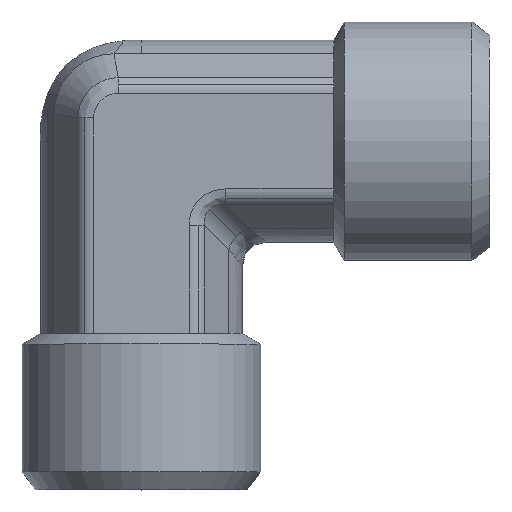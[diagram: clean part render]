
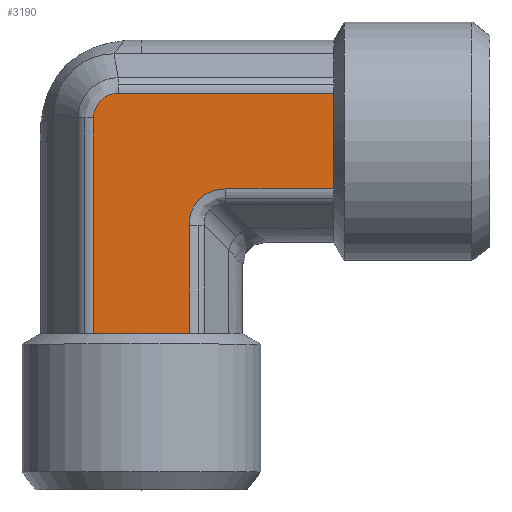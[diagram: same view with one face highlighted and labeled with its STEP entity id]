
A CAD part, top view. The second image highlights one B-rep face of the part: STEP entity #3190.
In plain terms, the highlighted planar face has unit normal (0, 0, 1) as drawn and (0, -1, 0) by its records, which use the part's own axes.
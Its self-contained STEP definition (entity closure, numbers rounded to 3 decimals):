
#361=CARTESIAN_POINT('',(2.515,-8.4,3.984));
#362=VERTEX_POINT('',#361);
#370=CARTESIAN_POINT('',(11.5,-8.4,3.984));
#371=VERTEX_POINT('',#370);
#372=CARTESIAN_POINT('',(2.515,-8.4,3.984));
#373=DIRECTION('',(1.0,0.0,0.0));
#374=VECTOR('',#373,8.985);
#375=LINE('',#372,#374);
#376=EDGE_CURVE('',#362,#371,#375,.T.);
#485=CARTESIAN_POINT('',(-8.484,-8.4,-1.926));
#486=VERTEX_POINT('',#485);
#494=CARTESIAN_POINT('',(-8.484,-8.4,16.0));
#495=VERTEX_POINT('',#494);
#496=CARTESIAN_POINT('',(-8.484,-8.4,-1.926));
#497=DIRECTION('',(0.0,0.0,1.0));
#498=VECTOR('',#497,17.926);
#499=LINE('',#496,#498);
#500=EDGE_CURVE('',#486,#495,#499,.T.);
#776=CARTESIAN_POINT('',(11.5,-8.4,0.));
#777=VERTEX_POINT('',#776);
#2109=CARTESIAN_POINT('',(-4.5,-8.4,16.0));
#2110=VERTEX_POINT('',#2109);
#2174=CARTESIAN_POINT('',(-4.5,-8.4,16.0));
#2175=DIRECTION('',(-1.0,0.0,0.0));
#2176=VECTOR('',#2175,3.984);
#2177=LINE('',#2174,#2176);
#2178=EDGE_CURVE('',#2110,#495,#2177,.T.);
#2251=CARTESIAN_POINT('',(-0.516,-8.4,16.0));
#2252=VERTEX_POINT('',#2251);
#2253=CARTESIAN_POINT('',(-0.516,-8.4,16.0));
#2254=DIRECTION('',(-1.0,0.0,0.0));
#2255=VECTOR('',#2254,3.984);
#2256=LINE('',#2253,#2255);
#2257=EDGE_CURVE('',#2252,#2110,#2256,.T.);
#2383=CARTESIAN_POINT('',(11.5,-8.4,-3.984));
#2384=VERTEX_POINT('',#2383);
#2385=CARTESIAN_POINT('',(11.5,-8.4,-3.984));
#2386=DIRECTION('',(0.0,0.0,1.0));
#2387=VECTOR('',#2386,3.984);
#2388=LINE('',#2385,#2387);
#2389=EDGE_CURVE('',#2384,#777,#2388,.T.);
#2430=CARTESIAN_POINT('',(11.5,-8.4,0.));
#2431=DIRECTION('',(0.0,0.0,1.0));
#2432=VECTOR('',#2431,3.984);
#2433=LINE('',#2430,#2432);
#2434=EDGE_CURVE('',#777,#371,#2433,.T.);
#2874=CARTESIAN_POINT('',(-6.426,-8.4,-3.984));
#2875=VERTEX_POINT('',#2874);
#2883=CARTESIAN_POINT('',(-8.484,-8.4,-1.926));
#2884=CARTESIAN_POINT('',(-8.484,-8.4,-2.06));
#2885=CARTESIAN_POINT('',(-8.47,-8.4,-2.195));
#2886=CARTESIAN_POINT('',(-8.402,-8.4,-2.54));
#2887=CARTESIAN_POINT('',(-8.326,-8.4,-2.743));
#2888=CARTESIAN_POINT('',(-8.051,-8.4,-3.233));
#2889=CARTESIAN_POINT('',(-7.806,-8.4,-3.49));
#2890=CARTESIAN_POINT('',(-7.186,-8.4,-3.876));
#2891=CARTESIAN_POINT('',(-6.806,-8.4,-3.984));
#2892=CARTESIAN_POINT('',(-6.426,-8.4,-3.984));
#2893=B_SPLINE_CURVE_WITH_KNOTS('',3,(#2883,#2884,#2885,#2886,#2887,#2888,#2889,#2890,#2891,#2892),.UNSPECIFIED.,.F.,.U.,(4,2,2,2,4),(-3.216,-2.814,-2.171,-1.142,0.0),.UNSPECIFIED.);
#2894=EDGE_CURVE('',#2875,#486,#2893,.F.);
#2921=CARTESIAN_POINT('',(11.5,-8.4,-3.984));
#2922=DIRECTION('',(-1.0,0.0,0.0));
#2923=VECTOR('',#2922,17.926);
#2924=LINE('',#2921,#2923);
#2925=EDGE_CURVE('',#2384,#2875,#2924,.T.);
#3057=CARTESIAN_POINT('',(-0.516,-8.4,7.015));
#3058=VERTEX_POINT('',#3057);
#3059=CARTESIAN_POINT('',(-0.516,-8.4,16.0));
#3060=DIRECTION('',(0.0,0.0,-1.0));
#3061=VECTOR('',#3060,8.985);
#3062=LINE('',#3059,#3061);
#3063=EDGE_CURVE('',#2252,#3058,#3062,.T.);
#3146=CARTESIAN_POINT('',(3.525,-8.4,8.025));
#3147=DIRECTION('',(0.,-1.,0.));
#3148=DIRECTION('',(-0.707,0.,-0.707));
#3149=AXIS2_PLACEMENT_3D('',#3146,#3147,#3148);
#3150=ELLIPSE('',#3149,4.518,3.5);
#3151=EDGE_CURVE('',#3058,#362,#3150,.T.);
#3173=CARTESIAN_POINT('',(-4.5,-8.4,-3.175));
#3174=DIRECTION('',(0.0,-1.0,0.0));
#3175=DIRECTION('',(0.0,0.0,-1.0));
#3176=AXIS2_PLACEMENT_3D('',#3173,#3174,#3175);
#3177=PLANE('',#3176);
#3178=ORIENTED_EDGE('',*,*,#2925,.F.);
#3179=ORIENTED_EDGE('',*,*,#2389,.T.);
#3180=ORIENTED_EDGE('',*,*,#2434,.T.);
#3181=ORIENTED_EDGE('',*,*,#376,.F.);
#3182=ORIENTED_EDGE('',*,*,#3151,.F.);
#3183=ORIENTED_EDGE('',*,*,#3063,.F.);
#3184=ORIENTED_EDGE('',*,*,#2257,.T.);
#3185=ORIENTED_EDGE('',*,*,#2178,.T.);
#3186=ORIENTED_EDGE('',*,*,#500,.F.);
#3187=ORIENTED_EDGE('',*,*,#2894,.F.);
#3188=EDGE_LOOP('',(#3178,#3179,#3180,#3181,#3182,#3183,#3184,#3185,#3186,#3187));
#3189=FACE_OUTER_BOUND('',#3188,.T.);
#3190=ADVANCED_FACE('',(#3189),#3177,.T.);
